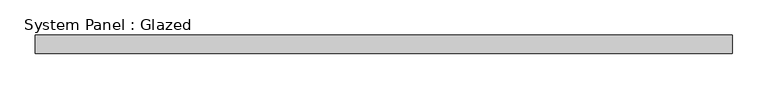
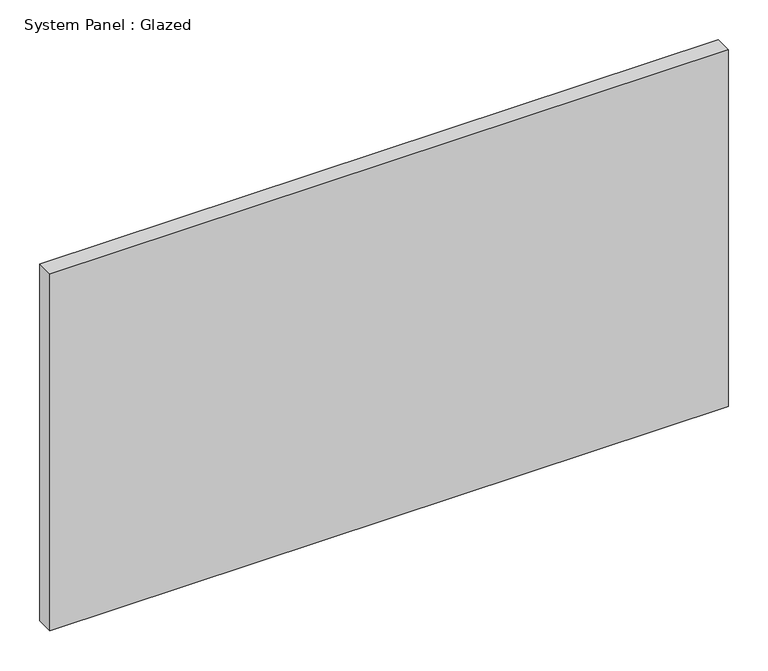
"""IFC4 building model written with IfcOpenShell, lengths in millimetres: plate geometry, System Panel : Glazed."""

import ifcopenshell
import ifcopenshell.guid

model = None  # the IFC model being written
_history = None  # IfcOwnerHistory: only IFC2X3 demands one
_inside = {}  # id of a spatial element -> (the spatial element, [elements in it])
_under = {}  # id of a project, library or spatial element -> (it, [spatial elements below it])
_declared = {}  # id of a project -> (the project, [libraries it declares])
_typed = {}  # id of a type object -> (the type object, [elements of that type])
_made_of = {}  # id of a material, layer set ... -> (it, [elements and type objects made of it])


def new_model(schema):
    """Start an empty IFC model of exactly this schema.

    Asked for "IFC4X3", IfcOpenShell would pick the latest addendum, in which some entities
    have other attributes; the version numbers below select the first issue.
    IFC2X3 requires an IfcOwnerHistory on every rooted entity: one is made here for all.
    """
    global model, _history
    if schema == "IFC4X3":
        model = ifcopenshell.file(schema_version=(4, 3, 0, 0))
    else:
        model = ifcopenshell.file(schema=schema)
    _inside.clear()
    _under.clear()
    _declared.clear()
    _typed.clear()
    _made_of.clear()
    _history = None
    if model.schema == "IFC2X3":
        org = make("IfcOrganization", Name="unknown")
        user = make(
            "IfcPersonAndOrganization",
            ThePerson=make("IfcPerson", FamilyName="unknown"),
            TheOrganization=org,
        )
        app = make(
            "IfcApplication",
            ApplicationDeveloper=org,
            Version="unknown",
            ApplicationFullName="unknown",
            ApplicationIdentifier="unknown",
        )
        _history = make(
            "IfcOwnerHistory",
            OwningUser=user,
            OwningApplication=app,
            ChangeAction="ADDED",
            CreationDate=0,
        )
    return model


def make(cls, **values):
    """One entity of the class cls with the attributes given. An attribute that is None is left unset."""
    return model.create_entity(
        cls, **{name: value for name, value in values.items() if value is not None}
    )


def rooted(cls, **values):
    """An entity with a GlobalId (a new one), such as an element, a storey or a relation."""
    return make(cls, GlobalId=ifcopenshell.guid.new(), OwnerHistory=_history, **values)


def si_unit(unit_type, name, prefix=None):
    """IfcSIUnit, for example si_unit("LENGTHUNIT", "METRE", prefix="MILLI")."""
    return make("IfcSIUnit", UnitType=unit_type, Prefix=prefix, Name=name)


def assignment(units):
    """IfcUnitAssignment: the units of a project."""
    return None if units is None else make("IfcUnitAssignment", Units=units)


def point(xyz):
    """IfcCartesianPoint."""
    return None if xyz is None else make("IfcCartesianPoint", Coordinates=xyz)


def direction(xyz):
    """IfcDirection."""
    return None if xyz is None else make("IfcDirection", DirectionRatios=xyz)


def frame(location, z_axis=None, x_axis=None):
    """IfcAxis2Placement3D, a coordinate frame: its origin and axes. An axis left out is left unset."""
    return make(
        "IfcAxis2Placement3D",
        Location=point(location),
        Axis=direction(z_axis),
        RefDirection=direction(x_axis),
    )


def origin():
    """The frame at (0, 0, 0) with its axes left unset."""
    return frame((0.0, 0.0, 0.0))


def origin_with_axes():
    """The frame at (0, 0, 0) with the z axis (0, 0, 1) and the x axis (1, 0, 0) written out."""
    return frame((0.0, 0.0, 0.0), z_axis=(0.0, 0.0, 1.0), x_axis=(1.0, 0.0, 0.0))


def place(relative_to, where):
    """IfcLocalPlacement: puts the frame where relative to a parent placement (None: the world)."""
    return make(
        "IfcLocalPlacement", PlacementRelTo=relative_to, RelativePlacement=where
    )


def context(
    kind, dimensions, precision=None, world=None, true_north=None, identifier=None
):
    """IfcGeometricRepresentationContext, for example the 3D "Model" context."""
    return make(
        "IfcGeometricRepresentationContext",
        ContextIdentifier=identifier,
        ContextType=kind,
        CoordinateSpaceDimension=dimensions,
        Precision=precision,
        WorldCoordinateSystem=world,
        TrueNorth=true_north,
    )


def project(units=None, contexts=None):
    """IfcProject with its units and contexts."""
    return rooted(
        "IfcProject",
        Name="project",
        RepresentationContexts=contexts,
        UnitsInContext=assignment(units),
    )


def spatial(cls, under=None, at=None, **own):
    """A site, building, storey or space (cls), placed at a placement, below another one or the project."""
    s = rooted(cls, ObjectPlacement=at, **own)
    if under is not None:
        _under.setdefault(under.id(), (under, []))[1].append(s)
    return s


def polyline(points):
    """IfcPolyline through the points."""
    return make("IfcPolyline", Points=[point(p) for p in points])


def outline(outer, holes=None, kind="AREA"):
    """IfcArbitraryClosedProfileDef: a profile drawn as a closed curve; with holes, ...WithVoids."""
    if holes is None:
        return make("IfcArbitraryClosedProfileDef", ProfileType=kind, OuterCurve=outer)
    return make(
        "IfcArbitraryProfileDefWithVoids",
        ProfileType=kind,
        OuterCurve=outer,
        InnerCurves=holes,
    )


def extrude(swept, where, along, depth):
    """IfcExtrudedAreaSolid: the profile swept, set in the frame where, extruded along a direction by depth."""
    return make(
        "IfcExtrudedAreaSolid",
        SweptArea=swept,
        Position=where,
        ExtrudedDirection=direction(along),
        Depth=depth,
    )


def shape(context_of_items, identifier, shape_type, items):
    """IfcShapeRepresentation: the items that make up one representation, for example the "Body"."""
    return make(
        "IfcShapeRepresentation",
        ContextOfItems=context_of_items,
        RepresentationIdentifier=identifier,
        RepresentationType=shape_type,
        Items=items,
    )


def source(mapping_origin, context_of_items, identifier, shape_type, items):
    """IfcRepresentationMap: a shape defined once, which mapped items show again and again."""
    return make(
        "IfcRepresentationMap",
        MappingOrigin=mapping_origin,
        MappedRepresentation=shape(context_of_items, identifier, shape_type, items),
    )


def transform(
    local_origin,
    x_axis=None,
    y_axis=None,
    z_axis=None,
    scale=None,
    scale2=None,
    scale3=None,
    uniform=True,
):
    """IfcCartesianTransformationOperator3D, or its non-uniform kind. x_axis, y_axis, z_axis: its Axis1, 2, 3."""
    if uniform:
        return make(
            "IfcCartesianTransformationOperator3D",
            Axis1=direction(x_axis),
            Axis2=direction(y_axis),
            LocalOrigin=point(local_origin),
            Scale=scale,
            Axis3=direction(z_axis),
        )
    return make(
        "IfcCartesianTransformationOperator3DnonUniform",
        Axis1=direction(x_axis),
        Axis2=direction(y_axis),
        LocalOrigin=point(local_origin),
        Scale=scale,
        Axis3=direction(z_axis),
        Scale2=scale2,
        Scale3=scale3,
    )


def mapped(mapping_source, mapping_target):
    """IfcMappedItem: shows the shape of a source again, moved by a transform."""
    return make(
        "IfcMappedItem", MappingSource=mapping_source, MappingTarget=mapping_target
    )


def made_of(thing, what):
    """Note that an element or type object is made of a material, layer set ...; save() writes the relation."""
    if what is not None:
        _made_of.setdefault(what.id(), (what, []))[1].append(thing)
    return thing


def element(
    cls,
    number,
    at=None,
    inside=None,
    cuts=None,
    type_object=None,
    material=None,
    context=None,
    identifier="Body",
    shape_type=None,
    held_by="IfcProductDefinitionShape",
    body=None,
    shapes=None,
    **own,
):
    """One element of the class cls, such as IfcWall. Its Tag is "e" and its number.

    at: its placement. inside: the storey or other place that contains it. cuts: it is an
    opening in that element (IfcRelVoidsElement). A single representation is given by context,
    identifier, shape_type and body (its items); several are given by shapes. held_by: the class
    of the entity that holds the representations. save() writes the other relations.
    """
    e = rooted(cls, Tag="e%d" % number, ObjectPlacement=at, **own)
    if body is not None:
        shapes = [shape(context, identifier, shape_type, body)]
    if shapes is not None:
        e.Representation = make(held_by, Representations=shapes)
    if inside is not None:
        _inside.setdefault(inside.id(), (inside, []))[1].append(e)
    if cuts is not None:
        rooted(
            "IfcRelVoidsElement", RelatingBuildingElement=cuts, RelatedOpeningElement=e
        )
    if type_object is not None:
        _typed.setdefault(type_object.id(), (type_object, []))[1].append(e)
    return made_of(e, material)


def aggregate(whole, parts):
    """IfcRelAggregates: a whole, such as a stair, and the parts it consists of."""
    return rooted("IfcRelAggregates", RelatingObject=whole, RelatedObjects=parts)


def save(model, path):
    """Write the relations noted so far, then the file.

    IfcRelAggregates (storeys below a building ...), IfcRelContainedInSpatialStructure (elements
    in a storey), IfcRelDefinesByType, IfcRelAssociatesMaterial and IfcRelDeclares: one each for
    every whole, place, type object, material and project.
    """
    for whole, parts in _under.values():
        aggregate(whole, parts)
    for where, things in _inside.values():
        rooted(
            "IfcRelContainedInSpatialStructure",
            RelatedElements=things,
            RelatingStructure=where,
        )
    for kind, things in _typed.values():
        rooted("IfcRelDefinesByType", RelatedObjects=things, RelatingType=kind)
    for what, things in _made_of.values():
        rooted("IfcRelAssociatesMaterial", RelatedObjects=things, RelatingMaterial=what)
    for by, libraries in _declared.values():
        rooted("IfcRelDeclares", RelatingContext=by, RelatedDefinitions=libraries)
    model.write(path)


def system_panel_glazed_664bf825(model_context):
    return source(origin(), model_context, "Body", "SweptSolid", [
        extrude(outline(polyline([(490.9910714, 19.05), (-490.9910714, 19.05), (-490.9910714, 44.45), (490.9910714, 44.45), (490.9910714, 19.05)])), origin_with_axes(), (0.0, 0.0, 1.0), 546.1),
    ])


if __name__ == "__main__":
    model = new_model("IFC4")
    model_context = context("Model", 3, world=origin())
    ifc_project = project(units=[si_unit("LENGTHUNIT", "METRE", prefix="MILLI")], contexts=[model_context])
    site = spatial("IfcSite", under=ifc_project)
    building = spatial("IfcBuilding", under=site)
    placement = place(None, origin())
    system_panel_glazed_shape = system_panel_glazed_664bf825(model_context)
    element("IfcPlate", 1, ObjectType="System Panel : Glazed", at=placement, inside=building, context=model_context, shape_type="MappedRepresentation", body=[
        mapped(system_panel_glazed_shape, transform((0.0, 0.0, 0.0), x_axis=(1.0, 0.0, 0.0), y_axis=(0.0, 1.0, 0.0), z_axis=(0.0, 0.0, 1.0))),
    ])
    save(model, "model.ifc")
